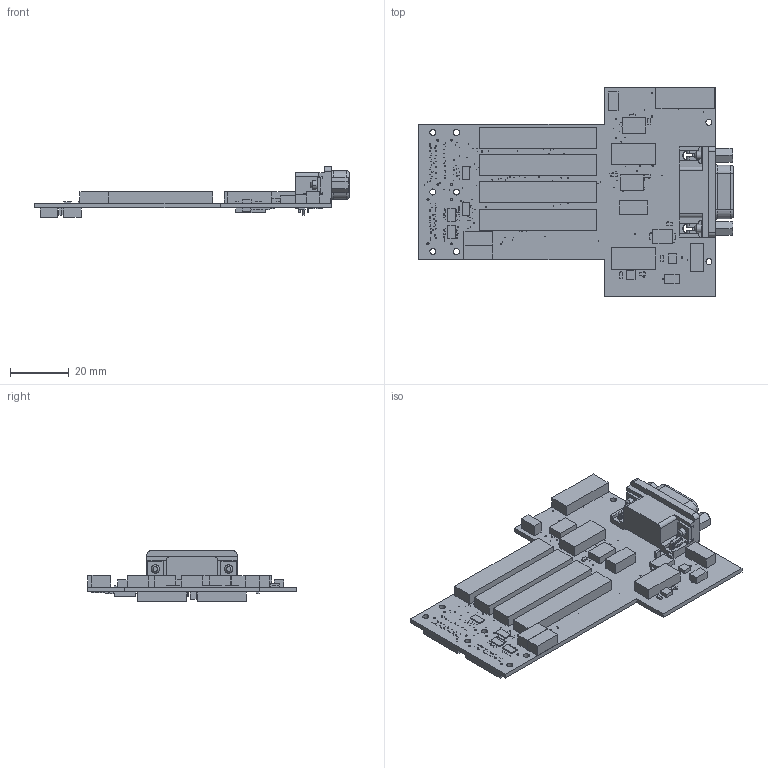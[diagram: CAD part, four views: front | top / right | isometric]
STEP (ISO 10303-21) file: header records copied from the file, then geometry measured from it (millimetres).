
FILE_DESCRIPTION (( 'STEP AP203' ), '1' );
FILE_NAME ('VAR-EXT-CB105-V1.1-3D-ASSLY-1.STEP', '2011-02-28T09:48:52', ( 'gaby' ), ( '' ), 'SwSTEP 2.0', 'SolidWorks 2011', '' );
FILE_SCHEMA (( 'CONFIG_CONTROL_DESIGN' ));
Length unit declared in the file: millimetre
Products named in the file (5): c-1734351-1-a-3d; top=place; VAR-EXT-CB105-V1.1-3D-ASSLY-1; VAR-EXT-CB105-1v1; BOTTOM-PLACE
Assembly tree (2 placements, depth 2):
  top=place
  VAR-EXT-CB105-V1.1-3D-ASSLY-1
    c-1734351-1-a-3d
    VAR-EXT-CB105-1v1
  BOTTOM-PLACE
Bounding box: 107.32 x 71.63 x 17.27 mm (x, y, z)
Volume: 20642.4 mm3; surface area: 24681.9 mm2
Topology: 59 solids, 59 shells, 1830 faces, 5001 edges, 3314 vertices
Faces by surface type: cylinder 1094, plane 692, cone 36, bspline 8
Entity records: 61250 total; most frequent: DIRECTION 10829, CARTESIAN_POINT 10422, ORIENTED_EDGE 9994, EDGE_CURVE 4997, AXIS2_PLACEMENT_3D 4057, VERTEX_POINT 3314, EDGE_LOOP 2859, VECTOR 2715
